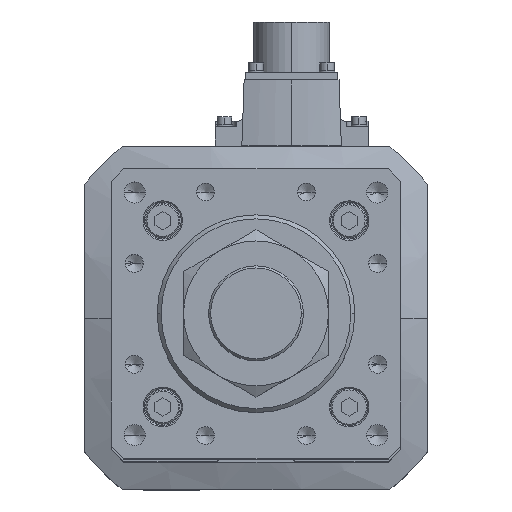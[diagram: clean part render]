
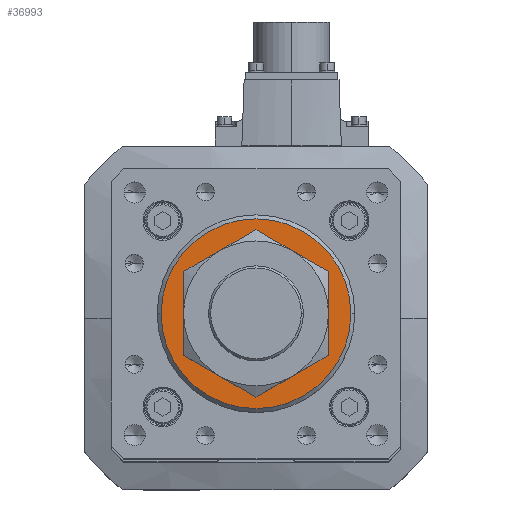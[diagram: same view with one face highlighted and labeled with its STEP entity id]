
A CAD part, top view. The second image highlights one B-rep face of the part: STEP entity #36993.
In plain terms, the highlighted planar face has unit normal (0, 0, 1).
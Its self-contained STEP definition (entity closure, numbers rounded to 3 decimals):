
#1045 = FACE_OUTER_BOUND ( 'NONE', #20142, .T. ) ;
#2038 = AXIS2_PLACEMENT_3D ( 'NONE', #10096, #7166, #13350 ) ;
#2709 = CIRCLE ( 'NONE', #37345, 36. ) ;
#2900 = FACE_BOUND ( 'NONE', #12736, .T. ) ;
#3205 = VERTEX_POINT ( 'NONE', #9835 ) ;
#4076 = AXIS2_PLACEMENT_3D ( 'NONE', #21463, #5611, #12446 ) ;
#4768 = DIRECTION ( 'NONE',  ( 0., 0., -1. ) ) ;
#5611 = DIRECTION ( 'NONE',  ( 0., 0., 1. ) ) ;
#7166 = DIRECTION ( 'NONE',  ( 0., 0., -1. ) ) ;
#7726 = EDGE_CURVE ( 'NONE', #25197, #3205, #10016, .T. ) ;
#8997 = CIRCLE ( 'NONE', #32291, 36. ) ;
#9050 = EDGE_CURVE ( 'NONE', #17051, #12544, #8997, .T. ) ;
#9332 = CARTESIAN_POINT ( 'NONE',  ( 0., 0., 696. ) ) ;
#9835 = CARTESIAN_POINT ( 'NONE',  ( 23., 0., 696. ) ) ;
#10016 = CIRCLE ( 'NONE', #2038, 23. ) ;
#10096 = CARTESIAN_POINT ( 'NONE',  ( 0., 0., 696. ) ) ;
#11269 = EDGE_CURVE ( 'NONE', #3205, #25197, #21962, .T. ) ;
#12446 = DIRECTION ( 'NONE',  ( 1., 0., 0. ) ) ;
#12544 = VERTEX_POINT ( 'NONE', #16269 ) ;
#12736 = EDGE_LOOP ( 'NONE', ( #34968, #18270 ) ) ;
#13350 = DIRECTION ( 'NONE',  ( 1., 0., 0. ) ) ;
#15613 = PLANE ( 'NONE',  #4076 ) ;
#16269 = CARTESIAN_POINT ( 'NONE',  ( -36., 0., 696. ) ) ;
#17051 = VERTEX_POINT ( 'NONE', #32629 ) ;
#17236 = ORIENTED_EDGE ( 'NONE', *, *, #32724, .T. ) ;
#17460 = CARTESIAN_POINT ( 'NONE',  ( 0., 0., 696. ) ) ;
#18270 = ORIENTED_EDGE ( 'NONE', *, *, #7726, .T. ) ;
#20142 = EDGE_LOOP ( 'NONE', ( #17236, #36493 ) ) ;
#21463 = CARTESIAN_POINT ( 'NONE',  ( 0., 0., 696. ) ) ;
#21962 = CIRCLE ( 'NONE', #26267, 23. ) ;
#23383 = CARTESIAN_POINT ( 'NONE',  ( -23., 0., 696. ) ) ;
#24762 = DIRECTION ( 'NONE',  ( 1., 0., 0. ) ) ;
#25197 = VERTEX_POINT ( 'NONE', #23383 ) ;
#25202 = DIRECTION ( 'NONE',  ( 1., 0., 0. ) ) ;
#26267 = AXIS2_PLACEMENT_3D ( 'NONE', #28365, #4768, #25202 ) ;
#28365 = CARTESIAN_POINT ( 'NONE',  ( 0., 0., 696. ) ) ;
#29268 = DIRECTION ( 'NONE',  ( 0., 0., 1. ) ) ;
#29619 = DIRECTION ( 'NONE',  ( 0., 0., 1. ) ) ;
#32291 = AXIS2_PLACEMENT_3D ( 'NONE', #17460, #29268, #35398 ) ;
#32629 = CARTESIAN_POINT ( 'NONE',  ( 36., 0., 696. ) ) ;
#32724 = EDGE_CURVE ( 'NONE', #12544, #17051, #2709, .T. ) ;
#34968 = ORIENTED_EDGE ( 'NONE', *, *, #11269, .T. ) ;
#35398 = DIRECTION ( 'NONE',  ( 1., 0., 0. ) ) ;
#36493 = ORIENTED_EDGE ( 'NONE', *, *, #9050, .T. ) ;
#36993 = ADVANCED_FACE ( 'NONE', ( #2900, #1045 ), #15613, .T. ) ;
#37345 = AXIS2_PLACEMENT_3D ( 'NONE', #9332, #29619, #24762 ) ;
